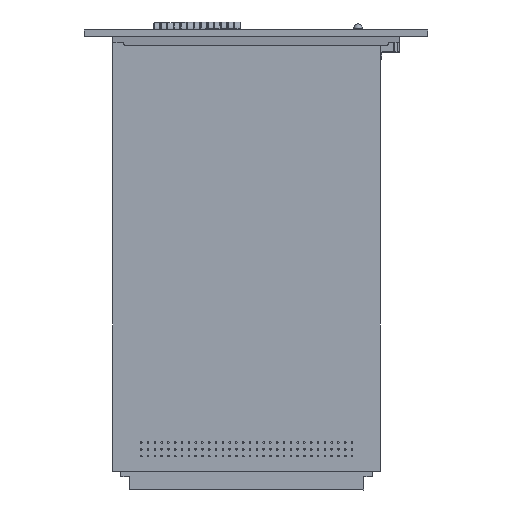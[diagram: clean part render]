
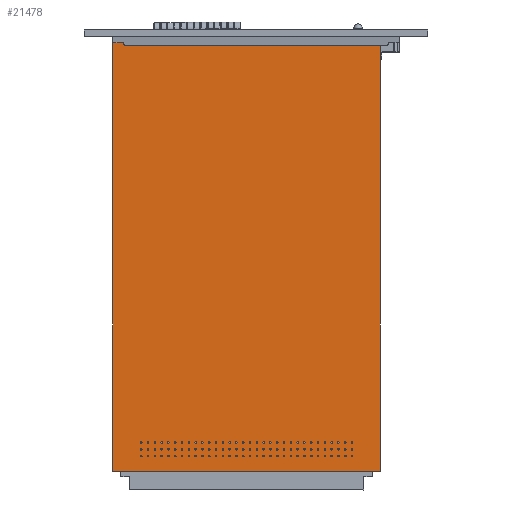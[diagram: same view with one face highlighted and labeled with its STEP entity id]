
A CAD part, left-side view. The second image highlights one B-rep face of the part: STEP entity #21478.
In plain terms, the highlighted planar face has unit normal (-1, 0, 0) as drawn and (0, 0, 1) by its records, which use the part's own axes.
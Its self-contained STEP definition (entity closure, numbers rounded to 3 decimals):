
#712=LINE('',#33442,#2203);
#715=LINE('',#33448,#2206);
#718=LINE('',#33454,#2209);
#721=LINE('',#33458,#2212);
#2203=VECTOR('',#26195,10.);
#2206=VECTOR('',#26200,10.);
#2209=VECTOR('',#26205,10.);
#2212=VECTOR('',#26210,10.);
#3640=PLANE('',#23174);
#5162=FACE_OUTER_BOUND('',#6680,.T.);
#6680=EDGE_LOOP('',(#15078,#15079,#15080,#15081));
#10012=VERTEX_POINT('',#33439);
#10013=VERTEX_POINT('',#33441);
#10015=VERTEX_POINT('',#33447);
#10017=VERTEX_POINT('',#33453);
#12093=EDGE_CURVE('',#10013,#10012,#712,.T.);
#12096=EDGE_CURVE('',#10015,#10013,#715,.T.);
#12099=EDGE_CURVE('',#10017,#10015,#718,.T.);
#12102=EDGE_CURVE('',#10012,#10017,#721,.T.);
#15078=ORIENTED_EDGE('',*,*,#12102,.T.);
#15079=ORIENTED_EDGE('',*,*,#12099,.T.);
#15080=ORIENTED_EDGE('',*,*,#12096,.T.);
#15081=ORIENTED_EDGE('',*,*,#12093,.T.);
#21478=ADVANCED_FACE('',(#5162),#3640,.T.);
#23174=AXIS2_PLACEMENT_3D('',#33460,#26213,#26214);
#26195=DIRECTION('',(0.,-1.,0.));
#26200=DIRECTION('',(-1.,0.,0.));
#26205=DIRECTION('',(0.,1.,0.));
#26210=DIRECTION('',(1.,0.,0.));
#26213=DIRECTION('center_axis',(0.,0.,1.));
#26214=DIRECTION('ref_axis',(1.,0.,0.));
#33439=CARTESIAN_POINT('',(-80.,-50.,1.6));
#33441=CARTESIAN_POINT('',(-80.,50.,1.6));
#33442=CARTESIAN_POINT('',(-80.,-50.,1.6));
#33447=CARTESIAN_POINT('',(80.,50.,1.6));
#33448=CARTESIAN_POINT('',(-80.,50.,1.6));
#33453=CARTESIAN_POINT('',(80.,-50.,1.6));
#33454=CARTESIAN_POINT('',(80.,50.,1.6));
#33458=CARTESIAN_POINT('',(80.,-50.,1.6));
#33460=CARTESIAN_POINT('Origin',(0.,0.,1.6));
